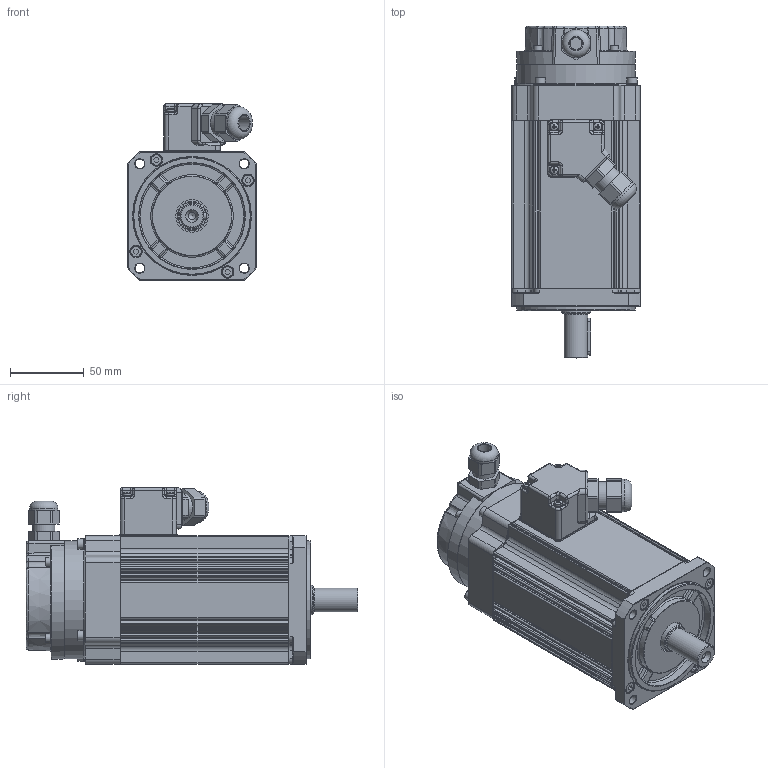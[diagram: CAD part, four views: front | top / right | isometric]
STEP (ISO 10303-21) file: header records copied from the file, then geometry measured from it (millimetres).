
FILE_DESCRIPTION(('STEP AP203'),'1');
FILE_NAME('B301E-D2RB.stp','2021-04-14T07:13:59',(' '),(' '),'Spatial InterOp 3D',' ',' ');
FILE_SCHEMA(('CONFIG_CONTROL_DESIGN'));
Length unit declared in the file: millimetre
Products named in the file (1): B301E-D2RB
Bounding box: 87 x 225 x 119.5 mm (x, y, z)
Volume: 1226209 mm3; surface area: 117067.7 mm2
Topology: 1 solids, 10 shells, 1845 faces, 4392 edges, 2577 vertices
Faces by surface type: plane 827, cylinder 402, cone 393, torus 122, bspline 72, sphere 22, revolution 7
Full cylindrical faces by diameter (mm): 2.5 x1, 3 x7, 3.3 x9, 3.5 x4, 4 x8, 4.5 x8, 5 x1, 5.5 x4, 5.6 x3, 6.5 x4, 7 x8, 8 x5, 8.5 x1, 10 x1, 10.5 x1, 15.2 x1, 16 x1, 18.6 x2, 19 x1, 19.8 x1, 22 x2, 30 x1, 72 x1, 80 x2
Entity records: 60449 total; most frequent: CARTESIAN_POINT 19087, DIRECTION 8945, ORIENTED_EDGE 8244, EDGE_CURVE 4122, AXIS2_PLACEMENT_3D 3382, VERTEX_POINT 2492, LINE 2174, VECTOR 2174
